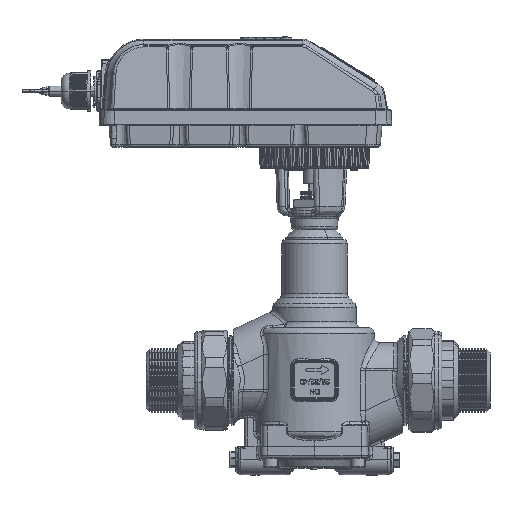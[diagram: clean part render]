
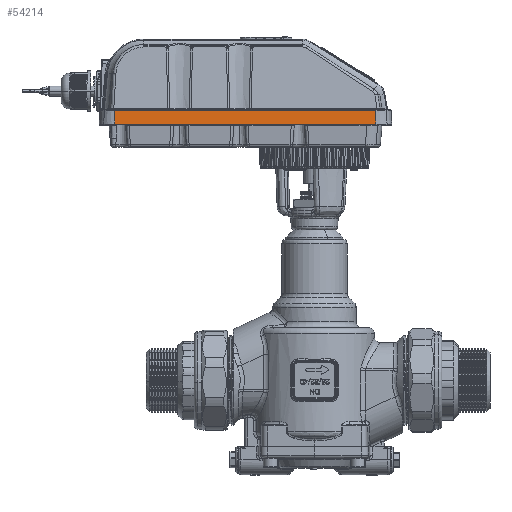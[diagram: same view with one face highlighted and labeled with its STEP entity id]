
A CAD part, top view. The second image highlights one B-rep face of the part: STEP entity #54214.
In plain terms, the highlighted planar face has unit normal (0, 0.035, 0.999).
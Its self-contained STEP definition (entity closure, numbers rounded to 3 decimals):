
#2814 = ORIENTED_EDGE ( 'NONE', *, *, #48010, .F. ) ;
#2974 = EDGE_LOOP ( 'NONE', ( #48286, #123991, #33459, #2814 ) ) ;
#4804 = VERTEX_POINT ( 'NONE', #51357 ) ;
#6027 = VECTOR ( 'NONE', #115455, 1000. ) ;
#7868 = CARTESIAN_POINT ( 'NONE',  ( -133., 170.717, 52.932 ) ) ;
#20450 = LINE ( 'NONE', #97601, #117287 ) ;
#22273 = CARTESIAN_POINT ( 'NONE',  ( -143.45, 170.4, 52.943 ) ) ;
#26805 = DIRECTION ( 'NONE',  ( 1., 0., 0. ) ) ;
#33458 = VECTOR ( 'NONE', #50516, 1000. ) ;
#33459 = ORIENTED_EDGE ( 'NONE', *, *, #70152, .F. ) ;
#35744 = AXIS2_PLACEMENT_3D ( 'NONE', #22273, #78303, #102279 ) ;
#48010 = EDGE_CURVE ( 'NONE', #101954, #88512, #20450, .T. ) ;
#48286 = ORIENTED_EDGE ( 'NONE', *, *, #56201, .F. ) ;
#50516 = DIRECTION ( 'NONE',  ( -1., 0., 0. ) ) ;
#51357 = CARTESIAN_POINT ( 'NONE',  ( 41., 170.717, 52.932 ) ) ;
#54214 = ADVANCED_FACE ( 'NONE', ( #57911 ), #68116, .T. ) ;
#56201 = EDGE_CURVE ( 'NONE', #4804, #101954, #141397, .T. ) ;
#57911 = FACE_OUTER_BOUND ( 'NONE', #2974, .T. ) ;
#61558 = CARTESIAN_POINT ( 'NONE',  ( 41., 170.2, 52.95 ) ) ;
#64282 = CARTESIAN_POINT ( 'NONE',  ( -94.725, 170.717, 52.932 ) ) ;
#68116 = PLANE ( 'NONE',  #35744 ) ;
#70152 = EDGE_CURVE ( 'NONE', #88512, #82101, #103983, .T. ) ;
#78303 = DIRECTION ( 'NONE',  ( 0., 0.035, 0.999 ) ) ;
#82101 = VERTEX_POINT ( 'NONE', #94063 ) ;
#88512 = VERTEX_POINT ( 'NONE', #128544 ) ;
#92898 = LINE ( 'NONE', #61558, #6027 ) ;
#94063 = CARTESIAN_POINT ( 'NONE',  ( 41., 179.917, 52.611 ) ) ;
#97601 = CARTESIAN_POINT ( 'NONE',  ( -133., 170.2, 52.95 ) ) ;
#101954 = VERTEX_POINT ( 'NONE', #7868 ) ;
#102279 = DIRECTION ( 'NONE',  ( 1., 0., 0. ) ) ;
#103983 = LINE ( 'NONE', #136683, #112048 ) ;
#112048 = VECTOR ( 'NONE', #26805, 1000. ) ;
#115455 = DIRECTION ( 'NONE',  ( 0., -0.999, 0.035 ) ) ;
#117287 = VECTOR ( 'NONE', #133225, 1000. ) ;
#123991 = ORIENTED_EDGE ( 'NONE', *, *, #143912, .F. ) ;
#128544 = CARTESIAN_POINT ( 'NONE',  ( -133., 179.917, 52.611 ) ) ;
#133225 = DIRECTION ( 'NONE',  ( 0., 0.999, -0.035 ) ) ;
#136683 = CARTESIAN_POINT ( 'NONE',  ( -94.725, 179.917, 52.611 ) ) ;
#141397 = LINE ( 'NONE', #64282, #33458 ) ;
#143912 = EDGE_CURVE ( 'NONE', #82101, #4804, #92898, .T. ) ;
